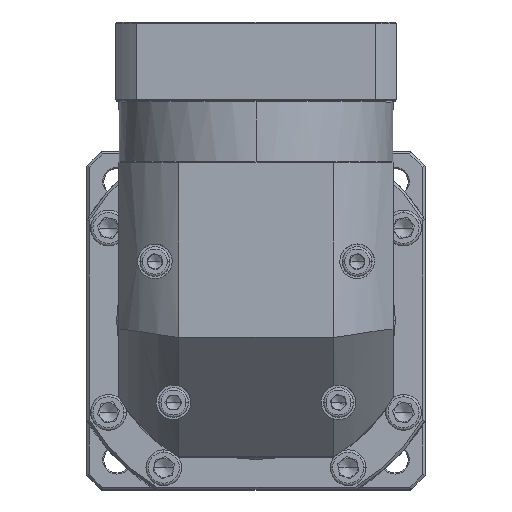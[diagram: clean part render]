
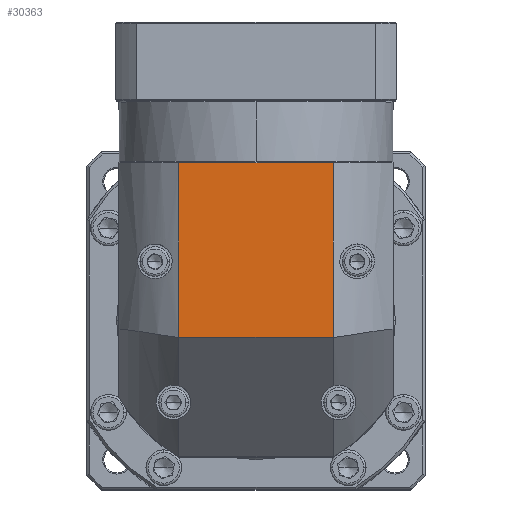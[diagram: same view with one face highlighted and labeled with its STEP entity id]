
A CAD part, top view. The second image highlights one B-rep face of the part: STEP entity #30363.
In plain terms, the highlighted planar face has unit normal (0, 0, 1).
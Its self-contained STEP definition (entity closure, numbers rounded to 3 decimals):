
#410 = VERTEX_POINT ( 'NONE', #125542 ) ;
#682 = VERTEX_POINT ( 'NONE', #58890 ) ;
#12077 = PLANE ( 'NONE',  #28716 ) ;
#13543 = ORIENTED_EDGE ( 'NONE', *, *, #39057, .F. ) ;
#16133 = LINE ( 'NONE', #116827, #41428 ) ;
#17416 = VERTEX_POINT ( 'NONE', #101647 ) ;
#21477 = ORIENTED_EDGE ( 'NONE', *, *, #133667, .F. ) ;
#24101 = EDGE_LOOP ( 'NONE', ( #39041, #77675, #13543, #21477 ) ) ;
#28716 = AXIS2_PLACEMENT_3D ( 'NONE', #32864, #99382, #65107 ) ;
#30363 = ADVANCED_FACE ( 'NONE', ( #72685 ), #12077, .F. ) ;
#32864 = CARTESIAN_POINT ( 'NONE',  ( -157.196, 57.736, 87.256 ) ) ;
#39041 = ORIENTED_EDGE ( 'NONE', *, *, #65088, .F. ) ;
#39057 = EDGE_CURVE ( 'NONE', #410, #56772, #86986, .T. ) ;
#41428 = VECTOR ( 'NONE', #128245, 1000. ) ;
#45417 = VECTOR ( 'NONE', #45897, 1000. ) ;
#45897 = DIRECTION ( 'NONE',  ( -1., 0., 0. ) ) ;
#48909 = CARTESIAN_POINT ( 'NONE',  ( -214.696, 123.636, 87.256 ) ) ;
#56772 = VERTEX_POINT ( 'NONE', #118321 ) ;
#58890 = CARTESIAN_POINT ( 'NONE',  ( -189.596, 123.636, 87.256 ) ) ;
#64208 = LINE ( 'NONE', #48909, #128959 ) ;
#65088 = EDGE_CURVE ( 'NONE', #17416, #682, #16133, .T. ) ;
#65107 = DIRECTION ( 'NONE',  ( 1., 0., 0. ) ) ;
#72685 = FACE_OUTER_BOUND ( 'NONE', #24101, .T. ) ;
#74673 = EDGE_CURVE ( 'NONE', #56772, #17416, #123744, .T. ) ;
#77675 = ORIENTED_EDGE ( 'NONE', *, *, #74673, .F. ) ;
#86986 = LINE ( 'NONE', #125409, #120903 ) ;
#99382 = DIRECTION ( 'NONE',  ( 0., 0., -1. ) ) ;
#101647 = CARTESIAN_POINT ( 'NONE',  ( -189.596, 50.236, 87.256 ) ) ;
#105044 = DIRECTION ( 'NONE',  ( 1., 0., 0. ) ) ;
#116827 = CARTESIAN_POINT ( 'NONE',  ( -189.596, 0.236, 87.256 ) ) ;
#118321 = CARTESIAN_POINT ( 'NONE',  ( -124.796, 50.236, 87.256 ) ) ;
#120903 = VECTOR ( 'NONE', #136863, 1000. ) ;
#123744 = LINE ( 'NONE', #132009, #45417 ) ;
#125409 = CARTESIAN_POINT ( 'NONE',  ( -124.796, 0.236, 87.256 ) ) ;
#125542 = CARTESIAN_POINT ( 'NONE',  ( -124.796, 123.636, 87.256 ) ) ;
#128245 = DIRECTION ( 'NONE',  ( 0., 1., 0. ) ) ;
#128959 = VECTOR ( 'NONE', #105044, 1000. ) ;
#132009 = CARTESIAN_POINT ( 'NONE',  ( -214.696, 50.236, 87.256 ) ) ;
#133667 = EDGE_CURVE ( 'NONE', #682, #410, #64208, .T. ) ;
#136863 = DIRECTION ( 'NONE',  ( 0., -1., 0. ) ) ;
